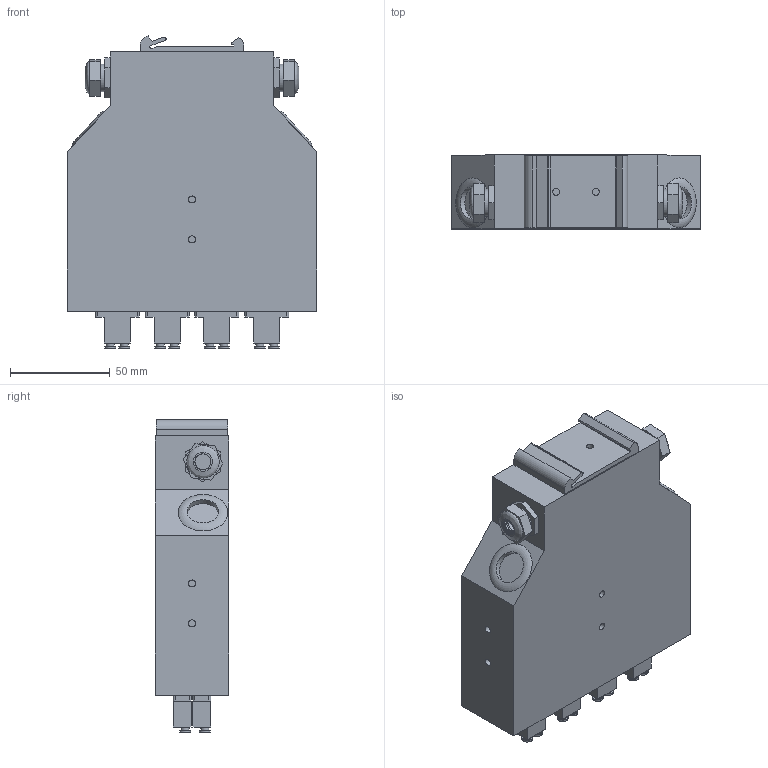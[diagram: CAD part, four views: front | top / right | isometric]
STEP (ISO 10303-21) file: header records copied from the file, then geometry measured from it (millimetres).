
FILE_DESCRIPTION(('TFLEX Exchange Step'),'2;1');
FILE_NAME('STK-OK-01-8LCD.stp', '2025-02-06T14:34:08+03:00',('Yuriy Romanov'),('Unknown organisation'),'TFLEX Exchange 2023.2','T-FLEX CAD','Unknown authorisation');
FILE_SCHEMA( ('AUTOMOTIVE_DESIGN { 1 0 10303 214 1 1 1 1 }') );
Length unit declared in the file: millimetre
Products named in the file (1): STK-OK-01-8LCD
Bounding box: 125 x 37 x 156.5 mm (x, y, z)
Volume: 565500.6 mm3; surface area: 75181.7 mm2
Topology: 18 solids, 18 shells, 985 faces, 2610 edges, 1744 vertices
Faces by surface type: plane 463, cylinder 276, cone 125, bspline 119, torus 2
Full cylindrical faces by diameter (mm): 3 x16, 3.5 x8, 4 x16, 5.5 x16, 8.05 x2, 8.823 x2, 9.2 x2, 11.932 x2, 12.555 x2, 13.8 x4, 16 x2, 20 x4
Entity records: 38225 total; most frequent: CARTESIAN_POINT 14207, ORIENTED_EDGE 5220, DIRECTION 4718, EDGE_CURVE 2610, AXIS2_PLACEMENT_3D 1839, VERTEX_POINT 1744, EDGE_LOOP 1084, FACE_BOUND 1084
